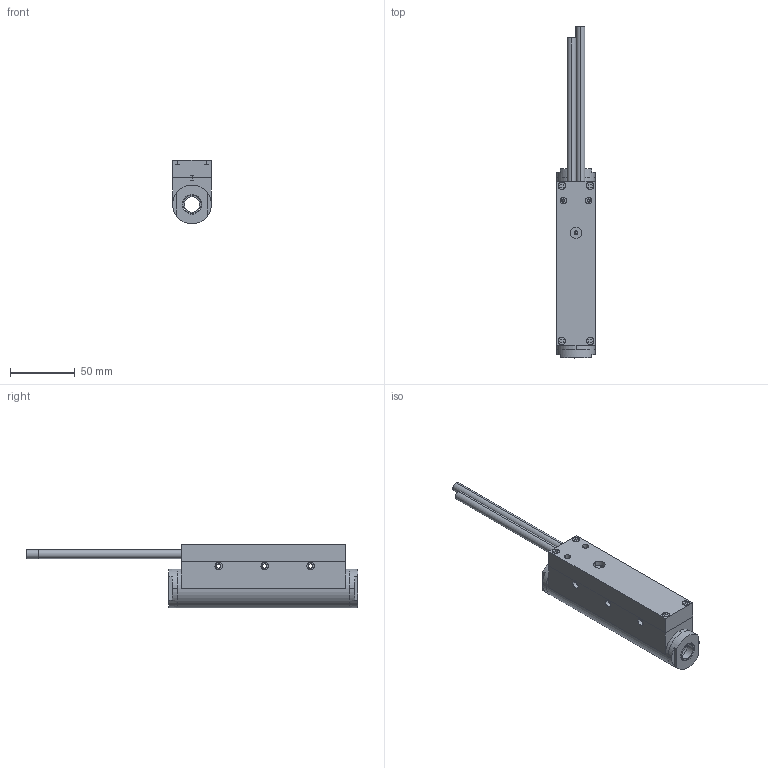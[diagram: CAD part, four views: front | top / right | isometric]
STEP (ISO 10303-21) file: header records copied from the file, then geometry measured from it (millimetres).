
FILE_DESCRIPTION(('STEP AP214'),'1');
FILE_NAME('C:/Users/Autocad/Dropbox/ETT/Drawing/Size 25/Corpo/ETT25D,T,Q.stp','2014-01-27T08:03:20',(' '),(' '),'Spatial InterOp 3D',' ',' ');
FILE_SCHEMA(('automotive_design'));
Length unit declared in the file: millimetre
Products named in the file (11): ETT25D,T,Q; tUBO PARKER; tappo 1; xsm-1214-06; Ass scatola 4-2 pressacavonuovo; Ass scatola 4-2 pressacavonuovo Geometry; Scatola 3 sotto 2; Scatola 3 pressacavo nuovo; Vite M3scheda -tappo; Vite M3 scatola
Assembly tree (14 placements, depth 3):
  ETT25D,T,Q
    tUBO PARKER
    tappo 1
    tappo 1
    xsm-1214-06  x2
    Ass scatola 4-2 pressacavonuovo
      Ass scatola 4-2 pressacavonuovo Geometry
      Scatola 3 sotto 2
      Scatola 3 pressacavo nuovo
      Vite M3scheda -tappo
      Vite M3 scatola  x4
Bounding box: 30 x 256.32 x 49.2 mm (x, y, z)
Volume: 103155.4 mm3; surface area: 72154.6 mm2
Topology: 14 solids, 162 shells, 413 faces, 1247 edges, 1041 vertices
Faces by surface type: cylinder 257, plane 152, cone 4
Entity records: 16924 total; most frequent: CARTESIAN_POINT 3484, DIRECTION 2257, ORIENTED_EDGE 1564, EDGE_CURVE 1082, VERTEX_POINT 926, AXIS2_PLACEMENT_3D 911, CIRCLE 553, EDGE_LOOP 446
